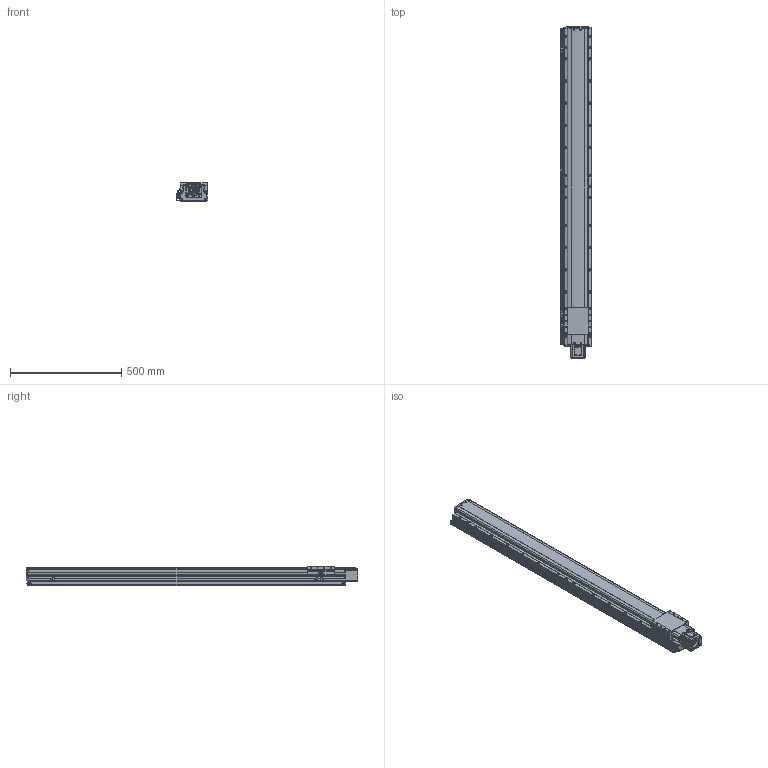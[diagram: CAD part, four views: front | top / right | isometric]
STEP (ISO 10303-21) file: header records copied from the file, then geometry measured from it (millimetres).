
FILE_DESCRIPTION(('STEP AP214'),'1');
FILE_NAME('Z:/Web/3D/PSA125/STP/PSA125-1200 (3D)/PSA125ㅁㅁ-1200S+3SL.stp','2014-06-23T05:27:54',(' '),(' '),'Spatial InterOp 3D',' ',' ');
FILE_SCHEMA(('automotive_design'));
Length unit declared in the file: millimetre
Products named in the file (53): 스크루 : Round - M4.0 x 10.0; RRCV-PA120; SLIDE; BASE; FRCV-PA120-1(기준 뿔 제거); RR1500; 스크루 : Round - M4.0 x 6.0; 너트 : Square - M10.0 x 220.7419; SSFX-SAN65; CPLCV-SAN65; 스크루 : Round - M3.0 x 6.0; MTHZ-PA120-S60A-3; 스크루 : Socket - M4.0 x 20.0; FRCV; NONE; EE-SX674; SBK-SX674-352; M3.0 x 6.0; SRL-16x17-380L; SGD-PA95; 스크루 : Round - M3.0 x 8.0
Bounding box: 141 x 1494.6 x 86 mm (x, y, z)
Volume: 12272094 mm3; surface area: 1136138.4 mm2
Topology: 53 solids, 87 shells, 3791 faces, 9754 edges, 6164 vertices
Faces by surface type: plane 1834, cylinder 1191, cone 481, torus 174, sphere 70, bspline 41
Entity records: 149490 total; most frequent: CARTESIAN_POINT 24265, DIRECTION 20424, ORIENTED_EDGE 19132, EDGE_CURVE 9566, AXIS2_PLACEMENT_3D 7335, VERTEX_POINT 6164, LINE 5754, VECTOR 5754
